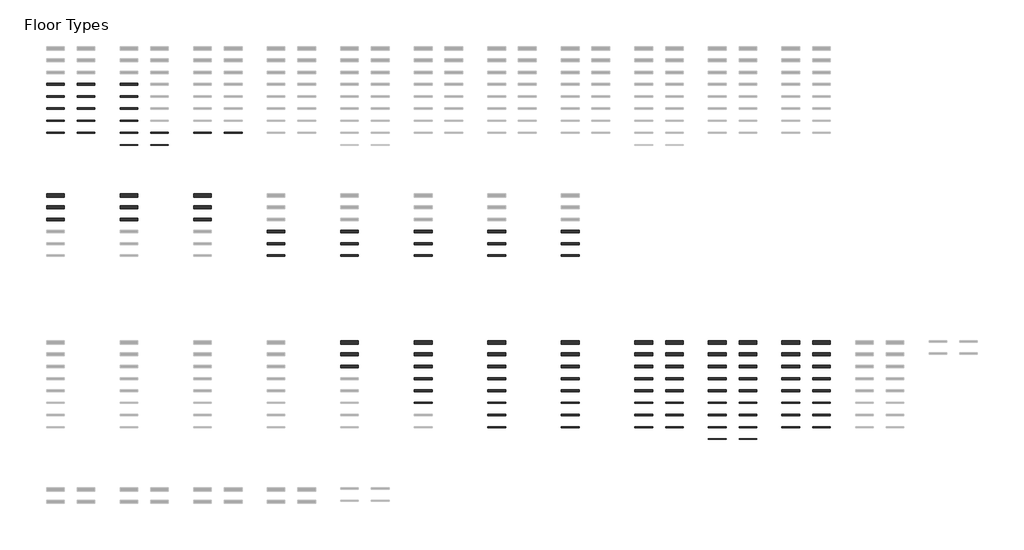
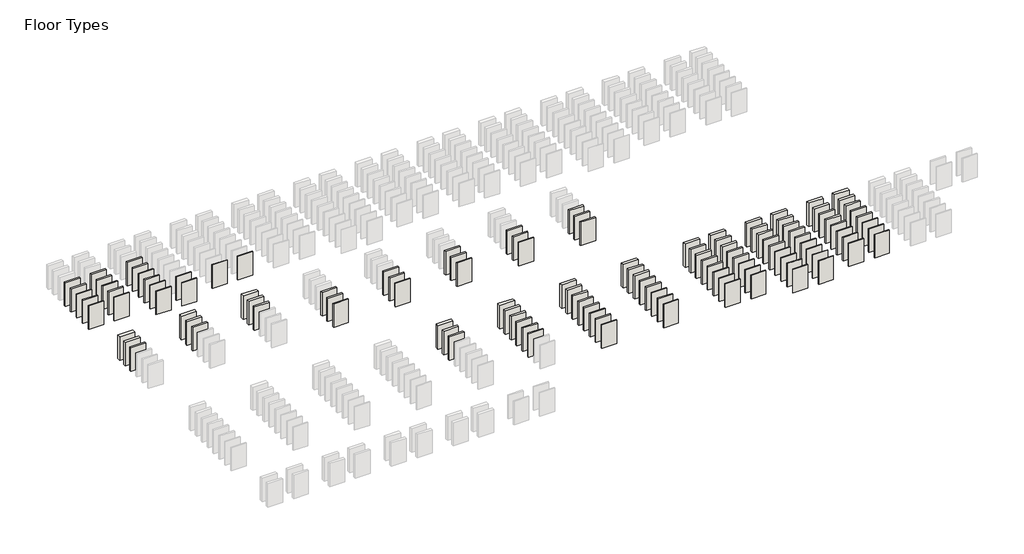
# One storey, part 2 of 4: 119 walls.
"""IFC4 building model written with IfcOpenShell, lengths in millimetres."""

from ifc_helpers import new_model, si_unit, origin, origin_with_axes, place, context, project, spatial, polyline, outline, extrude, element, save

model = new_model("IFC4")

# Units and contexts
model_context = context("Model", 3, world=origin())
ifc_project = project(units=[si_unit("LENGTHUNIT", "METRE", prefix="MILLI")], contexts=[model_context])

# Site, building, storey
site = spatial("IfcSite", under=ifc_project)
building = spatial("IfcBuilding", under=site)
storey = spatial("IfcBuildingStorey", under=building, Name="Floor Types", Elevation=0.0)

# Walls
placement = place(None, origin())
element("IfcWall", 1, ObjectType="ASTL_PS1200ZW_Hz_175mm", at=placement, inside=storey, context=model_context, shape_type="SweptSolid", body=[
    extrude(outline(polyline([(1447.8085217, -20174.0), (0.0, -20174.0), (0.0, -19999.0), (1447.8085217, -19999.0), (1447.8085217, -20174.0)])), origin_with_axes(), (0.0, 0.0, 1.0), 2400.0),
])
element("IfcWall", 2, ObjectType="ASTL_PS1200ZW_Hz_150mm", at=placement, inside=storey, context=model_context, shape_type="SweptSolid", body=[
    extrude(outline(polyline([(1447.8085217, -21148.0), (0.0, -21148.0), (0.0, -20998.0), (1447.8085217, -20998.0), (1447.8085217, -21148.0)])), origin_with_axes(), (0.0, 0.0, 1.0), 2400.0),
])
element("IfcWall", 3, ObjectType="ASTL_PS1200ZW_Hz_120mm", at=placement, inside=storey, context=model_context, shape_type="SweptSolid", body=[
    extrude(outline(polyline([(1447.8085217, -22119.0), (0.0, -22119.0), (0.0, -21999.0), (1447.8085217, -21999.0), (1447.8085217, -22119.0)])), origin_with_axes(), (0.0, 0.0, 1.0), 2400.0),
])
element("IfcWall", 4, ObjectType="ASTL_PS1200ZW_Hz_100mm", at=placement, inside=storey, context=model_context, shape_type="SweptSolid", body=[
    extrude(outline(polyline([(1447.8085217, -23099.0), (0.0, -23099.0), (0.0, -22999.0), (1447.8085217, -22999.0), (1447.8085217, -23099.0)])), origin_with_axes(), (0.0, 0.0, 1.0), 2400.0),
])
element("IfcWall", 5, ObjectType="ASTL_PS1200ZW_Vt_175mm", at=placement, inside=storey, context=model_context, shape_type="SweptSolid", body=[
    extrude(outline(polyline([(3947.5922316, -20174.0), (2499.78371, -20174.0), (2499.78371, -19999.0), (3947.5922316, -19999.0), (3947.5922316, -20174.0)])), origin_with_axes(), (0.0, 0.0, 1.0), 2400.0),
])
element("IfcWall", 6, ObjectType="ASTL_PS1200ZW_Vt_150mm", at=placement, inside=storey, context=model_context, shape_type="SweptSolid", body=[
    extrude(outline(polyline([(3947.5922316, -21149.0), (2499.78371, -21149.0), (2499.78371, -20999.0), (3947.5922316, -20999.0), (3947.5922316, -21149.0)])), origin_with_axes(), (0.0, 0.0, 1.0), 2400.0),
])
element("IfcWall", 7, ObjectType="ASTL_PS1200ZW_Vt_120mm", at=placement, inside=storey, context=model_context, shape_type="SweptSolid", body=[
    extrude(outline(polyline([(3947.5922316, -22119.0), (2499.78371, -22119.0), (2499.78371, -21999.0), (3947.5922316, -21999.0), (3947.5922316, -22119.0)])), origin_with_axes(), (0.0, 0.0, 1.0), 2400.0),
])
element("IfcWall", 8, ObjectType="ASTL_PS1200ZW_Vt_100mm", at=placement, inside=storey, context=model_context, shape_type="SweptSolid", body=[
    extrude(outline(polyline([(3947.5922316, -23099.0), (2499.78371, -23099.0), (2499.78371, -22999.0), (3947.5922316, -22999.0), (3947.5922316, -23099.0)])), origin_with_axes(), (0.0, 0.0, 1.0), 2400.0),
])
element("IfcWall", 9, ObjectType="ASTL_PS1200ZW_Vt_080mm", at=placement, inside=storey, context=model_context, shape_type="SweptSolid", body=[
    extrude(outline(polyline([(3947.5922316, -24079.0), (2499.78371, -24079.0), (2499.78371, -23999.0), (3947.5922316, -23999.0), (3947.5922316, -24079.0)])), origin_with_axes(), (0.0, 0.0, 1.0), 2400.0),
])
element("IfcWall", 10, ObjectType="ASTL_PS1200ZW_Hz_080mm", at=placement, inside=storey, context=model_context, shape_type="SweptSolid", body=[
    extrude(outline(polyline([(1447.8085217, -24079.0), (0.0, -24079.0), (0.0, -23999.0), (1447.8085217, -23999.0), (1447.8085217, -24079.0)])), origin_with_axes(), (0.0, 0.0, 1.0), 2400.0),
])
element("IfcWall", 11, ObjectType="ASTE_PS1200ZW_Hz_175mm", at=placement, inside=storey, context=model_context, shape_type="SweptSolid", body=[
    extrude(outline(polyline([(7447.8085217, -20174.0), (6000.0, -20174.0), (6000.0, -19999.0), (7447.8085217, -19999.0), (7447.8085217, -20174.0)])), origin_with_axes(), (0.0, 0.0, 1.0), 2400.0),
])
element("IfcWall", 12, ObjectType="ASTE_PS1200ZW_Hz_150mm", at=placement, inside=storey, context=model_context, shape_type="SweptSolid", body=[
    extrude(outline(polyline([(7447.8085217, -21149.0), (6000.0, -21149.0), (6000.0, -20999.0), (7447.8085217, -20999.0), (7447.8085217, -21149.0)])), origin_with_axes(), (0.0, 0.0, 1.0), 2400.0),
])
element("IfcWall", 13, ObjectType="ASTE_PS1200ZW_Hz_120mm", at=placement, inside=storey, context=model_context, shape_type="SweptSolid", body=[
    extrude(outline(polyline([(7447.8085217, -22119.0), (6000.0, -22119.0), (6000.0, -21999.0), (7447.8085217, -21999.0), (7447.8085217, -22119.0)])), origin_with_axes(), (0.0, 0.0, 1.0), 2400.0),
])
element("IfcWall", 14, ObjectType="ASTE_PS1200ZW_Hz_100mm", at=placement, inside=storey, context=model_context, shape_type="SweptSolid", body=[
    extrude(outline(polyline([(7447.8085217, -23099.0), (6000.0, -23099.0), (6000.0, -22999.0), (7447.8085217, -22999.0), (7447.8085217, -23099.0)])), origin_with_axes(), (0.0, 0.0, 1.0), 2400.0),
])
element("IfcWall", 15, ObjectType="ASTE_PS1200ZW_Vt_080mm", at=placement, inside=storey, context=model_context, shape_type="SweptSolid", body=[
    extrude(outline(polyline([(9947.5922316, -24079.0), (8500.0, -24079.0), (8500.0, -23999.0), (9947.5922316, -23999.0), (9947.5922316, -24079.0)])), origin_with_axes(), (0.0, 0.0, 1.0), 2400.0),
])
element("IfcWall", 16, ObjectType="ASTE_PS1200ZW_Hz_080mm", at=placement, inside=storey, context=model_context, shape_type="SweptSolid", body=[
    extrude(outline(polyline([(7447.8085217, -24079.0), (6000.0, -24079.0), (6000.0, -23999.0), (7447.8085217, -23999.0), (7447.8085217, -24079.0)])), origin_with_axes(), (0.0, 0.0, 1.0), 2400.0),
])
element("IfcWall", 17, ObjectType="ASTE_PS1200ZW_Vt_050mm", at=placement, inside=storey, context=model_context, shape_type="SweptSolid", body=[
    extrude(outline(polyline([(9947.5922316, -25049.0), (8500.0, -25049.0), (8500.0, -24999.0), (9947.5922316, -24999.0), (9947.5922316, -25049.0)])), origin_with_axes(), (0.0, 0.0, 1.0), 2400.0),
])
element("IfcWall", 18, ObjectType="ASTE_PS1200ZW_Hz_050mm", at=placement, inside=storey, context=model_context, shape_type="SweptSolid", body=[
    extrude(outline(polyline([(7447.8085217, -25049.0), (6000.0, -25049.0), (6000.0, -24999.0), (7447.8085217, -24999.0), (7447.8085217, -25049.0)])), origin_with_axes(), (0.0, 0.0, 1.0), 2400.0),
])
element("IfcWall", 19, ObjectType="ASTS_PS1200ZW_Vt_080mm", at=placement, inside=storey, context=model_context, shape_type="SweptSolid", body=[
    extrude(outline(polyline([(15947.8085217, -24079.0), (14500.0, -24079.0), (14500.0, -23999.0), (15947.8085217, -23999.0), (15947.8085217, -24079.0)])), origin_with_axes(), (0.0, 0.0, 1.0), 2400.0),
])
element("IfcWall", 20, ObjectType="ASTS_PS1200ZW_Hz_080mm", at=placement, inside=storey, context=model_context, shape_type="SweptSolid", body=[
    extrude(outline(polyline([(13447.8085217, -24079.0), (12000.0, -24079.0), (12000.0, -23999.0), (13447.8085217, -23999.0), (13447.8085217, -24079.0)])), origin_with_axes(), (0.0, 0.0, 1.0), 2400.0),
])
element("IfcWall", 21, ObjectType="ASTL_PS1200PD_Hz_300mm", at=placement, inside=storey, context=model_context, shape_type="SweptSolid", body=[
    extrude(outline(polyline([(1447.8085217, -29298.0), (0.0, -29298.0), (0.0, -28998.0), (1447.8085217, -28998.0), (1447.8085217, -29298.0)])), origin_with_axes(), (0.0, 0.0, 1.0), 2400.0),
])
element("IfcWall", 22, ObjectType="ASTL_PS1200PD_Hz_240mm", at=placement, inside=storey, context=model_context, shape_type="SweptSolid", body=[
    extrude(outline(polyline([(1447.8085217, -30239.0), (0.0, -30239.0), (0.0, -29999.0), (1447.8085217, -29999.0), (1447.8085217, -30239.0)])), origin_with_axes(), (0.0, 0.0, 1.0), 2400.0),
])
element("IfcWall", 23, ObjectType="ASTL_PS1200PD_Hz_200mm", at=placement, inside=storey, context=model_context, shape_type="SweptSolid", body=[
    extrude(outline(polyline([(1447.8085217, -31199.0), (0.0, -31199.0), (0.0, -30999.0), (1447.8085217, -30999.0), (1447.8085217, -31199.0)])), origin_with_axes(), (0.0, 0.0, 1.0), 2400.0),
])
element("IfcWall", 24, ObjectType="ASTE_PS1200PD_Hz_300mm", at=placement, inside=storey, context=model_context, shape_type="SweptSolid", body=[
    extrude(outline(polyline([(7447.8085217, -29298.0), (6000.0, -29298.0), (6000.0, -28998.0), (7447.8085217, -28998.0), (7447.8085217, -29298.0)])), origin_with_axes(), (0.0, 0.0, 1.0), 2400.0),
])
element("IfcWall", 25, ObjectType="ASTE_PS1200PD_Hz_240mm", at=placement, inside=storey, context=model_context, shape_type="SweptSolid", body=[
    extrude(outline(polyline([(7447.8085217, -30239.0), (6000.0, -30239.0), (6000.0, -29999.0), (7447.8085217, -29999.0), (7447.8085217, -30239.0)])), origin_with_axes(), (0.0, 0.0, 1.0), 2400.0),
])
element("IfcWall", 26, ObjectType="ASTE_PS1200PD_Hz_200mm", at=placement, inside=storey, context=model_context, shape_type="SweptSolid", body=[
    extrude(outline(polyline([(7447.8085217, -31199.0), (6000.0, -31199.0), (6000.0, -30999.0), (7447.8085217, -30999.0), (7447.8085217, -31199.0)])), origin_with_axes(), (0.0, 0.0, 1.0), 2400.0),
])
element("IfcWall", 27, ObjectType="ASTF_PS1200PD_Hz_300mm", at=placement, inside=storey, context=model_context, shape_type="SweptSolid", body=[
    extrude(outline(polyline([(13447.8085217, -29298.0), (12000.0, -29298.0), (12000.0, -28998.0), (13447.8085217, -28998.0), (13447.8085217, -29298.0)])), origin_with_axes(), (0.0, 0.0, 1.0), 2400.0),
])
element("IfcWall", 28, ObjectType="ASTF_PS1200PD_Hz_240mm", at=placement, inside=storey, context=model_context, shape_type="SweptSolid", body=[
    extrude(outline(polyline([(13447.8085217, -30239.0), (12000.0, -30239.0), (12000.0, -29999.0), (13447.8085217, -29999.0), (13447.8085217, -30239.0)])), origin_with_axes(), (0.0, 0.0, 1.0), 2400.0),
])
element("IfcWall", 29, ObjectType="ASTF_PS1200PD_Hz_200mm", at=placement, inside=storey, context=model_context, shape_type="SweptSolid", body=[
    extrude(outline(polyline([(13447.8085217, -31199.0), (12000.0, -31199.0), (12000.0, -30999.0), (13447.8085217, -30999.0), (13447.8085217, -31199.0)])), origin_with_axes(), (0.0, 0.0, 1.0), 2400.0),
])
element("IfcWall", 30, ObjectType="ASTS_PS1200PD_Hz_175mm", at=placement, inside=storey, context=model_context, shape_type="SweptSolid", body=[
    extrude(outline(polyline([(19447.8085217, -32174.0), (18000.0, -32174.0), (18000.0, -31999.0), (19447.8085217, -31999.0), (19447.8085217, -32174.0)])), origin_with_axes(), (0.0, 0.0, 1.0), 2400.0),
])
element("IfcWall", 31, ObjectType="ASTS_PS1200PD_Hz_150mm", at=placement, inside=storey, context=model_context, shape_type="SweptSolid", body=[
    extrude(outline(polyline([(19447.8085217, -33149.0), (18000.0, -33149.0), (18000.0, -32999.0), (19447.8085217, -32999.0), (19447.8085217, -33149.0)])), origin_with_axes(), (0.0, 0.0, 1.0), 2400.0),
])
element("IfcWall", 32, ObjectType="ASTS_PS1200PD_Hz_120mm", at=placement, inside=storey, context=model_context, shape_type="SweptSolid", body=[
    extrude(outline(polyline([(19447.8085217, -34119.0), (18000.0, -34119.0), (18000.0, -33999.0), (19447.8085217, -33999.0), (19447.8085217, -34119.0)])), origin_with_axes(), (0.0, 0.0, 1.0), 2400.0),
])
element("IfcWall", 33, ObjectType="ASTL_PS1200PD-LEC_Hz_175mm", at=placement, inside=storey, context=model_context, shape_type="SweptSolid", body=[
    extrude(outline(polyline([(25447.8085217, -32174.0), (24000.0, -32174.0), (24000.0, -31999.0), (25447.8085217, -31999.0), (25447.8085217, -32174.0)])), origin_with_axes(), (0.0, 0.0, 1.0), 2400.0),
])
element("IfcWall", 34, ObjectType="ASTL_PS1200PD-LEC_Hz_150mm", at=placement, inside=storey, context=model_context, shape_type="SweptSolid", body=[
    extrude(outline(polyline([(25447.8085217, -33149.0), (24000.0, -33149.0), (24000.0, -32999.0), (25447.8085217, -32999.0), (25447.8085217, -33149.0)])), origin_with_axes(), (0.0, 0.0, 1.0), 2400.0),
])
element("IfcWall", 35, ObjectType="ASTL_PS1200PD-LEC_Hz_120mm", at=placement, inside=storey, context=model_context, shape_type="SweptSolid", body=[
    extrude(outline(polyline([(25447.8085217, -34119.0), (24000.0, -34119.0), (24000.0, -33999.0), (25447.8085217, -33999.0), (25447.8085217, -34119.0)])), origin_with_axes(), (0.0, 0.0, 1.0), 2400.0),
])
element("IfcWall", 36, ObjectType="ASTE_PS1200PD-LEC_Hz_175mm", at=placement, inside=storey, context=model_context, shape_type="SweptSolid", body=[
    extrude(outline(polyline([(31447.8085217, -32174.0), (30000.0, -32174.0), (30000.0, -31999.0), (31447.8085217, -31999.0), (31447.8085217, -32174.0)])), origin_with_axes(), (0.0, 0.0, 1.0), 2400.0),
])
element("IfcWall", 37, ObjectType="ASTE_PS1200PD-LEC_Hz_150mm", at=placement, inside=storey, context=model_context, shape_type="SweptSolid", body=[
    extrude(outline(polyline([(31447.8085217, -33149.0), (30000.0, -33149.0), (30000.0, -32999.0), (31447.8085217, -32999.0), (31447.8085217, -33149.0)])), origin_with_axes(), (0.0, 0.0, 1.0), 2400.0),
])
element("IfcWall", 38, ObjectType="ASTE_PS1200PD-LEC_Hz_120mm", at=placement, inside=storey, context=model_context, shape_type="SweptSolid", body=[
    extrude(outline(polyline([(31447.8085217, -34119.0), (30000.0, -34119.0), (30000.0, -33999.0), (31447.8085217, -33999.0), (31447.8085217, -34119.0)])), origin_with_axes(), (0.0, 0.0, 1.0), 2400.0),
])
element("IfcWall", 39, ObjectType="ASTF_PS1200PD-LEC_Hz_175mm", at=placement, inside=storey, context=model_context, shape_type="SweptSolid", body=[
    extrude(outline(polyline([(37447.8085217, -32174.0), (36000.0, -32174.0), (36000.0, -31999.0), (37447.8085217, -31999.0), (37447.8085217, -32174.0)])), origin_with_axes(), (0.0, 0.0, 1.0), 2400.0),
])
element("IfcWall", 40, ObjectType="ASTF_PS1200PD-LEC_Hz_150mm", at=placement, inside=storey, context=model_context, shape_type="SweptSolid", body=[
    extrude(outline(polyline([(37447.8085217, -33149.0), (36000.0, -33149.0), (36000.0, -32999.0), (37447.8085217, -32999.0), (37447.8085217, -33149.0)])), origin_with_axes(), (0.0, 0.0, 1.0), 2400.0),
])
element("IfcWall", 41, ObjectType="ASTF_PS1200PD-LEC_Hz_120mm", at=placement, inside=storey, context=model_context, shape_type="SweptSolid", body=[
    extrude(outline(polyline([(37447.8085217, -34119.0), (36000.0, -34119.0), (36000.0, -33999.0), (37447.8085217, -33999.0), (37447.8085217, -34119.0)])), origin_with_axes(), (0.0, 0.0, 1.0), 2400.0),
])
element("IfcWall", 42, ObjectType="ASTS_PS1200PD-LEC_Hz_175mm", at=placement, inside=storey, context=model_context, shape_type="SweptSolid", body=[
    extrude(outline(polyline([(43447.8085217, -32174.0), (42000.0, -32174.0), (42000.0, -31999.0), (43447.8085217, -31999.0), (43447.8085217, -32174.0)])), origin_with_axes(), (0.0, 0.0, 1.0), 2400.0),
])
element("IfcWall", 43, ObjectType="ASTS_PS1200PD-LEC_Hz_150mm", at=placement, inside=storey, context=model_context, shape_type="SweptSolid", body=[
    extrude(outline(polyline([(43447.8085217, -33149.0), (42000.0, -33149.0), (42000.0, -32999.0), (43447.8085217, -32999.0), (43447.8085217, -33149.0)])), origin_with_axes(), (0.0, 0.0, 1.0), 2400.0),
])
element("IfcWall", 44, ObjectType="ASTS_PS1200PD-LEC_Hz_120mm", at=placement, inside=storey, context=model_context, shape_type="SweptSolid", body=[
    extrude(outline(polyline([(43447.8085217, -34119.0), (42000.0, -34119.0), (42000.0, -33999.0), (43447.8085217, -33999.0), (43447.8085217, -34119.0)])), origin_with_axes(), (0.0, 0.0, 1.0), 2400.0),
])
element("IfcWall", 45, ObjectType="ASTL_PS1200PS-LEC_Hz_300mm", at=placement, inside=storey, context=model_context, shape_type="SweptSolid", body=[
    extrude(outline(polyline([(25447.8085217, -41298.0), (24000.0, -41298.0), (24000.0, -40998.0), (25447.8085217, -40998.0), (25447.8085217, -41298.0)])), origin_with_axes(), (0.0, 0.0, 1.0), 2400.0),
])
element("IfcWall", 46, ObjectType="ASTL_PS1200PS-LEC_Hz_240mm", at=placement, inside=storey, context=model_context, shape_type="SweptSolid", body=[
    extrude(outline(polyline([(25447.8085217, -42239.0), (24000.0, -42239.0), (24000.0, -41999.0), (25447.8085217, -41999.0), (25447.8085217, -42239.0)])), origin_with_axes(), (0.0, 0.0, 1.0), 2400.0),
])
element("IfcWall", 47, ObjectType="ASTL_PS1200PS-LEC_Hz_200mm", at=placement, inside=storey, context=model_context, shape_type="SweptSolid", body=[
    extrude(outline(polyline([(25447.8085217, -43199.0), (24000.0, -43199.0), (24000.0, -42999.0), (25447.8085217, -42999.0), (25447.8085217, -43199.0)])), origin_with_axes(), (0.0, 0.0, 1.0), 2400.0),
])
element("IfcWall", 48, ObjectType="ASTE_PS1200PS-LEC_Hz_300mm", at=placement, inside=storey, context=model_context, shape_type="SweptSolid", body=[
    extrude(outline(polyline([(31447.8085217, -41299.0), (30000.0, -41299.0), (30000.0, -40999.0), (31447.8085217, -40999.0), (31447.8085217, -41299.0)])), origin_with_axes(), (0.0, 0.0, 1.0), 2400.0),
])
element("IfcWall", 49, ObjectType="ASTE_PS1200PS-LEC_Hz_240mm", at=placement, inside=storey, context=model_context, shape_type="SweptSolid", body=[
    extrude(outline(polyline([(31447.8085217, -42239.0), (30000.0, -42239.0), (30000.0, -41999.0), (31447.8085217, -41999.0), (31447.8085217, -42239.0)])), origin_with_axes(), (0.0, 0.0, 1.0), 2400.0),
])
element("IfcWall", 50, ObjectType="ASTE_PS1200PS-LEC_Hz_200mm", at=placement, inside=storey, context=model_context, shape_type="SweptSolid", body=[
    extrude(outline(polyline([(31447.8085217, -43199.0), (30000.0, -43199.0), (30000.0, -42999.0), (31447.8085217, -42999.0), (31447.8085217, -43199.0)])), origin_with_axes(), (0.0, 0.0, 1.0), 2400.0),
])
element("IfcWall", 51, ObjectType="ASTE_PS1200PS-LEC_Hz_175mm", at=placement, inside=storey, context=model_context, shape_type="SweptSolid", body=[
    extrude(outline(polyline([(31447.8085217, -44174.0), (30000.0, -44174.0), (30000.0, -43999.0), (31447.8085217, -43999.0), (31447.8085217, -44174.0)])), origin_with_axes(), (0.0, 0.0, 1.0), 2400.0),
])
element("IfcWall", 52, ObjectType="ASTE_PS1200PS-LEC_Hz_150mm", at=placement, inside=storey, context=model_context, shape_type="SweptSolid", body=[
    extrude(outline(polyline([(31447.8085217, -45149.0), (30000.0, -45149.0), (30000.0, -44999.0), (31447.8085217, -44999.0), (31447.8085217, -45149.0)])), origin_with_axes(), (0.0, 0.0, 1.0), 2400.0),
])
element("IfcWall", 53, ObjectType="ASTE_PS1200PS-LEC_Hz_120mm", at=placement, inside=storey, context=model_context, shape_type="SweptSolid", body=[
    extrude(outline(polyline([(31447.8085217, -46119.0), (30000.0, -46119.0), (30000.0, -45999.0), (31447.8085217, -45999.0), (31447.8085217, -46119.0)])), origin_with_axes(), (0.0, 0.0, 1.0), 2400.0),
])
element("IfcWall", 54, ObjectType="ASTF_PS1200PS-LEC_Hz_300mm", at=placement, inside=storey, context=model_context, shape_type="SweptSolid", body=[
    extrude(outline(polyline([(37447.8085217, -41299.0), (36000.0, -41299.0), (36000.0, -40999.0), (37447.8085217, -40999.0), (37447.8085217, -41299.0)])), origin_with_axes(), (0.0, 0.0, 1.0), 2400.0),
])
element("IfcWall", 55, ObjectType="ASTF_PS1200PS-LEC_Hz_240mm", at=placement, inside=storey, context=model_context, shape_type="SweptSolid", body=[
    extrude(outline(polyline([(37447.8085217, -42239.0), (36000.0, -42239.0), (36000.0, -41999.0), (37447.8085217, -41999.0), (37447.8085217, -42239.0)])), origin_with_axes(), (0.0, 0.0, 1.0), 2400.0),
])
element("IfcWall", 56, ObjectType="ASTF_PS1200PS-LEC_Hz_200mm", at=placement, inside=storey, context=model_context, shape_type="SweptSolid", body=[
    extrude(outline(polyline([(37447.8085217, -43199.0), (36000.0, -43199.0), (36000.0, -42999.0), (37447.8085217, -42999.0), (37447.8085217, -43199.0)])), origin_with_axes(), (0.0, 0.0, 1.0), 2400.0),
])
element("IfcWall", 57, ObjectType="ASTF_PS1200PS-LEC_Hz_175mm", at=placement, inside=storey, context=model_context, shape_type="SweptSolid", body=[
    extrude(outline(polyline([(37447.8085217, -44174.0), (36000.0, -44174.0), (36000.0, -43999.0), (37447.8085217, -43999.0), (37447.8085217, -44174.0)])), origin_with_axes(), (0.0, 0.0, 1.0), 2400.0),
])
element("IfcWall", 58, ObjectType="ASTF_PS1200PS-LEC_Hz_150mm", at=placement, inside=storey, context=model_context, shape_type="SweptSolid", body=[
    extrude(outline(polyline([(37447.8085217, -45149.0), (36000.0, -45149.0), (36000.0, -44999.0), (37447.8085217, -44999.0), (37447.8085217, -45149.0)])), origin_with_axes(), (0.0, 0.0, 1.0), 2400.0),
])
element("IfcWall", 59, ObjectType="ASTF_PS1200PS-LEC_Hz_120mm", at=placement, inside=storey, context=model_context, shape_type="SweptSolid", body=[
    extrude(outline(polyline([(37447.8085217, -46119.0), (36000.0, -46119.0), (36000.0, -45999.0), (37447.8085217, -45999.0), (37447.8085217, -46119.0)])), origin_with_axes(), (0.0, 0.0, 1.0), 2400.0),
])
element("IfcWall", 60, ObjectType="ASTF_PS1200PS-LEC_Hz_100mm", at=placement, inside=storey, context=model_context, shape_type="SweptSolid", body=[
    extrude(outline(polyline([(37447.8085217, -47099.0), (36000.0, -47099.0), (36000.0, -46999.0), (37447.8085217, -46999.0), (37447.8085217, -47099.0)])), origin_with_axes(), (0.0, 0.0, 1.0), 2400.0),
])
element("IfcWall", 61, ObjectType="ASTF_PS1200PS-LEC_Hz_080mm", at=placement, inside=storey, context=model_context, shape_type="SweptSolid", body=[
    extrude(outline(polyline([(37447.8085217, -48079.0), (36000.0, -48079.0), (36000.0, -47999.0), (37447.8085217, -47999.0), (37447.8085217, -48079.0)])), origin_with_axes(), (0.0, 0.0, 1.0), 2400.0),
])
element("IfcWall", 62, ObjectType="ASTS_PS1200PS-LEC_Hz_300mm", at=placement, inside=storey, context=model_context, shape_type="SweptSolid", body=[
    extrude(outline(polyline([(43447.8085217, -41299.0), (42000.0, -41299.0), (42000.0, -40999.0), (43447.8085217, -40999.0), (43447.8085217, -41299.0)])), origin_with_axes(), (0.0, 0.0, 1.0), 2400.0),
])
element("IfcWall", 63, ObjectType="ASTS_PS1200PS-LEC_Hz_240mm", at=placement, inside=storey, context=model_context, shape_type="SweptSolid", body=[
    extrude(outline(polyline([(43447.8085217, -42239.0), (42000.0, -42239.0), (42000.0, -41999.0), (43447.8085217, -41999.0), (43447.8085217, -42239.0)])), origin_with_axes(), (0.0, 0.0, 1.0), 2400.0),
])
element("IfcWall", 64, ObjectType="ASTS_PS1200PS-LEC_Hz_200mm", at=placement, inside=storey, context=model_context, shape_type="SweptSolid", body=[
    extrude(outline(polyline([(43447.8085217, -43199.0), (42000.0, -43199.0), (42000.0, -42999.0), (43447.8085217, -42999.0), (43447.8085217, -43199.0)])), origin_with_axes(), (0.0, 0.0, 1.0), 2400.0),
])
element("IfcWall", 65, ObjectType="ASTS_PS1200PS-LEC_Hz_175mm", at=placement, inside=storey, context=model_context, shape_type="SweptSolid", body=[
    extrude(outline(polyline([(43447.8085217, -44174.0), (42000.0, -44174.0), (42000.0, -43999.0), (43447.8085217, -43999.0), (43447.8085217, -44174.0)])), origin_with_axes(), (0.0, 0.0, 1.0), 2400.0),
])
element("IfcWall", 66, ObjectType="ASTS_PS1200PS-LEC_Hz_150mm", at=placement, inside=storey, context=model_context, shape_type="SweptSolid", body=[
    extrude(outline(polyline([(43447.8085217, -45149.0), (42000.0, -45149.0), (42000.0, -44999.0), (43447.8085217, -44999.0), (43447.8085217, -45149.0)])), origin_with_axes(), (0.0, 0.0, 1.0), 2400.0),
])
element("IfcWall", 67, ObjectType="ASTS_PS1200PS-LEC_Hz_120mm", at=placement, inside=storey, context=model_context, shape_type="SweptSolid", body=[
    extrude(outline(polyline([(43447.8085217, -46119.0), (42000.0, -46119.0), (42000.0, -45999.0), (43447.8085217, -45999.0), (43447.8085217, -46119.0)])), origin_with_axes(), (0.0, 0.0, 1.0), 2400.0),
])
element("IfcWall", 68, ObjectType="ASTS_PS1200PS-LEC_Hz_100mm", at=placement, inside=storey, context=model_context, shape_type="SweptSolid", body=[
    extrude(outline(polyline([(43447.8085217, -47099.0), (42000.0, -47099.0), (42000.0, -46999.0), (43447.8085217, -46999.0), (43447.8085217, -47099.0)])), origin_with_axes(), (0.0, 0.0, 1.0), 2400.0),
])
element("IfcWall", 69, ObjectType="ASTS_PS1200PS-LEC_Hz_080mm", at=placement, inside=storey, context=model_context, shape_type="SweptSolid", body=[
    extrude(outline(polyline([(43447.8085217, -48079.0), (42000.0, -48079.0), (42000.0, -47999.0), (43447.8085217, -47999.0), (43447.8085217, -48079.0)])), origin_with_axes(), (0.0, 0.0, 1.0), 2400.0),
])
element("IfcWall", 70, ObjectType="ASTL_PS1200PL_Hz_300mm", at=placement, inside=storey, context=model_context, shape_type="SweptSolid", body=[
    extrude(outline(polyline([(49447.8085217, -41299.0), (48000.0, -41299.0), (48000.0, -40999.0), (49447.8085217, -40999.0), (49447.8085217, -41299.0)])), origin_with_axes(), (0.0, 0.0, 1.0), 2400.0),
])
element("IfcWall", 71, ObjectType="ASTL_PS1200PL_Hz_240mm", at=placement, inside=storey, context=model_context, shape_type="SweptSolid", body=[
    extrude(outline(polyline([(49447.8085217, -42239.0), (48000.0, -42239.0), (48000.0, -41999.0), (49447.8085217, -41999.0), (49447.8085217, -42239.0)])), origin_with_axes(), (0.0, 0.0, 1.0), 2400.0),
])
element("IfcWall", 72, ObjectType="ASTL_PS1200PL_Hz_200mm", at=placement, inside=storey, context=model_context, shape_type="SweptSolid", body=[
    extrude(outline(polyline([(49447.8085217, -43199.0), (48000.0, -43199.0), (48000.0, -42999.0), (49447.8085217, -42999.0), (49447.8085217, -43199.0)])), origin_with_axes(), (0.0, 0.0, 1.0), 2400.0),
])
element("IfcWall", 73, ObjectType="ASTL_PS1200PL_Hz_175mm", at=placement, inside=storey, context=model_context, shape_type="SweptSolid", body=[
    extrude(outline(polyline([(49447.8085217, -44174.0), (48000.0, -44174.0), (48000.0, -43999.0), (49447.8085217, -43999.0), (49447.8085217, -44174.0)])), origin_with_axes(), (0.0, 0.0, 1.0), 2400.0),
])
element("IfcWall", 74, ObjectType="ASTL_PS1200PL_Hz_150mm", at=placement, inside=storey, context=model_context, shape_type="SweptSolid", body=[
    extrude(outline(polyline([(49447.8085217, -45149.0), (48000.0, -45149.0), (48000.0, -44999.0), (49447.8085217, -44999.0), (49447.8085217, -45149.0)])), origin_with_axes(), (0.0, 0.0, 1.0), 2400.0),
])
element("IfcWall", 75, ObjectType="ASTL_PS1200PL_Hz_120mm", at=placement, inside=storey, context=model_context, shape_type="SweptSolid", body=[
    extrude(outline(polyline([(49447.8085217, -46119.0), (48000.0, -46119.0), (48000.0, -45999.0), (49447.8085217, -45999.0), (49447.8085217, -46119.0)])), origin_with_axes(), (0.0, 0.0, 1.0), 2400.0),
])
element("IfcWall", 76, ObjectType="ASTL_PS1200PL_Hz_100mm", at=placement, inside=storey, context=model_context, shape_type="SweptSolid", body=[
    extrude(outline(polyline([(49447.8085217, -47099.0), (48000.0, -47099.0), (48000.0, -46999.0), (49447.8085217, -46999.0), (49447.8085217, -47099.0)])), origin_with_axes(), (0.0, 0.0, 1.0), 2400.0),
])
element("IfcWall", 77, ObjectType="ASTL_PS1200PL_Vt_300mm", at=placement, inside=storey, context=model_context, shape_type="SweptSolid", body=[
    extrude(outline(polyline([(51947.5922316, -41299.0), (50499.78371, -41299.0), (50499.78371, -40999.0), (51947.5922316, -40999.0), (51947.5922316, -41299.0)])), origin_with_axes(), (0.0, 0.0, 1.0), 2400.0),
])
element("IfcWall", 78, ObjectType="ASTL_PS1200PL_Vt_240mm", at=placement, inside=storey, context=model_context, shape_type="SweptSolid", body=[
    extrude(outline(polyline([(51947.5922316, -42239.0), (50499.78371, -42239.0), (50499.78371, -41999.0), (51947.5922316, -41999.0), (51947.5922316, -42239.0)])), origin_with_axes(), (0.0, 0.0, 1.0), 2400.0),
])
element("IfcWall", 79, ObjectType="ASTL_PS1200PL_Vt_200mm", at=placement, inside=storey, context=model_context, shape_type="SweptSolid", body=[
    extrude(outline(polyline([(51947.5922316, -43199.0), (50499.78371, -43199.0), (50499.78371, -42999.0), (51947.5922316, -42999.0), (51947.5922316, -43199.0)])), origin_with_axes(), (0.0, 0.0, 1.0), 2400.0),
])
element("IfcWall", 80, ObjectType="ASTL_PS1200PL_Vt_175mm", at=placement, inside=storey, context=model_context, shape_type="SweptSolid", body=[
    extrude(outline(polyline([(51947.5922316, -44174.0), (50499.78371, -44174.0), (50499.78371, -43999.0), (51947.5922316, -43999.0), (51947.5922316, -44174.0)])), origin_with_axes(), (0.0, 0.0, 1.0), 2400.0),
])
element("IfcWall", 81, ObjectType="ASTL_PS1200PL_Vt_150mm", at=placement, inside=storey, context=model_context, shape_type="SweptSolid", body=[
    extrude(outline(polyline([(51947.5922316, -45149.0), (50499.78371, -45149.0), (50499.78371, -44999.0), (51947.5922316, -44999.0), (51947.5922316, -45149.0)])), origin_with_axes(), (0.0, 0.0, 1.0), 2400.0),
])
element("IfcWall", 82, ObjectType="ASTL_PS1200PL_Vt_120mm", at=placement, inside=storey, context=model_context, shape_type="SweptSolid", body=[
    extrude(outline(polyline([(51947.5922316, -46119.0), (50499.78371, -46119.0), (50499.78371, -45999.0), (51947.5922316, -45999.0), (51947.5922316, -46119.0)])), origin_with_axes(), (0.0, 0.0, 1.0), 2400.0),
])
element("IfcWall", 83, ObjectType="ASTL_PS1200PL_Vt_100mm", at=placement, inside=storey, context=model_context, shape_type="SweptSolid", body=[
    extrude(outline(polyline([(51947.5922316, -47099.0), (50499.78371, -47099.0), (50499.78371, -46999.0), (51947.5922316, -46999.0), (51947.5922316, -47099.0)])), origin_with_axes(), (0.0, 0.0, 1.0), 2400.0),
])
element("IfcWall", 84, ObjectType="ASTL_PS1200PL_Vt_080mm", at=placement, inside=storey, context=model_context, shape_type="SweptSolid", body=[
    extrude(outline(polyline([(51947.5922316, -48079.0), (50499.78371, -48079.0), (50499.78371, -47999.0), (51947.5922316, -47999.0), (51947.5922316, -48079.0)])), origin_with_axes(), (0.0, 0.0, 1.0), 2400.0),
])
element("IfcWall", 85, ObjectType="ASTL_PS1200PL_Hz_080mm", at=placement, inside=storey, context=model_context, shape_type="SweptSolid", body=[
    extrude(outline(polyline([(49447.8085217, -48079.0), (48000.0, -48079.0), (48000.0, -47999.0), (49447.8085217, -47999.0), (49447.8085217, -48079.0)])), origin_with_axes(), (0.0, 0.0, 1.0), 2400.0),
])
element("IfcWall", 86, ObjectType="ASTE_PS1200PL_Hz_300mm", at=placement, inside=storey, context=model_context, shape_type="SweptSolid", body=[
    extrude(outline(polyline([(55447.8085217, -41299.0), (54000.0, -41299.0), (54000.0, -40999.0), (55447.8085217, -40999.0), (55447.8085217, -41299.0)])), origin_with_axes(), (0.0, 0.0, 1.0), 2400.0),
])
element("IfcWall", 87, ObjectType="ASTE_PS1200PL_Hz_240mm", at=placement, inside=storey, context=model_context, shape_type="SweptSolid", body=[
    extrude(outline(polyline([(55447.8085217, -42239.0), (54000.0, -42239.0), (54000.0, -41999.0), (55447.8085217, -41999.0), (55447.8085217, -42239.0)])), origin_with_axes(), (0.0, 0.0, 1.0), 2400.0),
])
element("IfcWall", 88, ObjectType="ASTE_PS1200PL_Hz_200mm", at=placement, inside=storey, context=model_context, shape_type="SweptSolid", body=[
    extrude(outline(polyline([(55447.8085217, -43199.0), (54000.0, -43199.0), (54000.0, -42999.0), (55447.8085217, -42999.0), (55447.8085217, -43199.0)])), origin_with_axes(), (0.0, 0.0, 1.0), 2400.0),
])
element("IfcWall", 89, ObjectType="ASTE_PS1200PL_Hz_175mm", at=placement, inside=storey, context=model_context, shape_type="SweptSolid", body=[
    extrude(outline(polyline([(55447.8085217, -44174.0), (54000.0, -44174.0), (54000.0, -43999.0), (55447.8085217, -43999.0), (55447.8085217, -44174.0)])), origin_with_axes(), (0.0, 0.0, 1.0), 2400.0),
])
element("IfcWall", 90, ObjectType="ASTE_PS1200PL_Hz_150mm", at=placement, inside=storey, context=model_context, shape_type="SweptSolid", body=[
    extrude(outline(polyline([(55447.8085217, -45149.0), (54000.0, -45149.0), (54000.0, -44999.0), (55447.8085217, -44999.0), (55447.8085217, -45149.0)])), origin_with_axes(), (0.0, 0.0, 1.0), 2400.0),
])
element("IfcWall", 91, ObjectType="ASTE_PS1200PL_Hz_120mm", at=placement, inside=storey, context=model_context, shape_type="SweptSolid", body=[
    extrude(outline(polyline([(55447.8085217, -46119.0), (54000.0, -46119.0), (54000.0, -45999.0), (55447.8085217, -45999.0), (55447.8085217, -46119.0)])), origin_with_axes(), (0.0, 0.0, 1.0), 2400.0),
])
element("IfcWall", 92, ObjectType="ASTE_PS1200PL_Hz_100mm", at=placement, inside=storey, context=model_context, shape_type="SweptSolid", body=[
    extrude(outline(polyline([(55447.8085217, -47099.0), (54000.0, -47099.0), (54000.0, -46999.0), (55447.8085217, -46999.0), (55447.8085217, -47099.0)])), origin_with_axes(), (0.0, 0.0, 1.0), 2400.0),
])
element("IfcWall", 93, ObjectType="ASTE_PS1200PL_Vt_300mm", at=placement, inside=storey, context=model_context, shape_type="SweptSolid", body=[
    extrude(outline(polyline([(57947.5922316, -41299.0), (56499.78371, -41299.0), (56499.78371, -40999.0), (57947.5922316, -40999.0), (57947.5922316, -41299.0)])), origin_with_axes(), (0.0, 0.0, 1.0), 2400.0),
])
element("IfcWall", 94, ObjectType="ASTE_PS1200PL_Vt_240mm", at=placement, inside=storey, context=model_context, shape_type="SweptSolid", body=[
    extrude(outline(polyline([(57947.5922316, -42239.0), (56499.78371, -42239.0), (56499.78371, -41999.0), (57947.5922316, -41999.0), (57947.5922316, -42239.0)])), origin_with_axes(), (0.0, 0.0, 1.0), 2400.0),
])
element("IfcWall", 95, ObjectType="ASTE_PS1200PL_Vt_200mm", at=placement, inside=storey, context=model_context, shape_type="SweptSolid", body=[
    extrude(outline(polyline([(57947.5922316, -43199.0), (56499.78371, -43199.0), (56499.78371, -42999.0), (57947.5922316, -42999.0), (57947.5922316, -43199.0)])), origin_with_axes(), (0.0, 0.0, 1.0), 2400.0),
])
element("IfcWall", 96, ObjectType="ASTE_PS1200PL_Vt_175mm", at=placement, inside=storey, context=model_context, shape_type="SweptSolid", body=[
    extrude(outline(polyline([(57947.5922316, -44174.0), (56499.78371, -44174.0), (56499.78371, -43999.0), (57947.5922316, -43999.0), (57947.5922316, -44174.0)])), origin_with_axes(), (0.0, 0.0, 1.0), 2400.0),
])
element("IfcWall", 97, ObjectType="ASTE_PS1200PL_Vt_150mm", at=placement, inside=storey, context=model_context, shape_type="SweptSolid", body=[
    extrude(outline(polyline([(57947.5922316, -45149.0), (56499.78371, -45149.0), (56499.78371, -44999.0), (57947.5922316, -44999.0), (57947.5922316, -45149.0)])), origin_with_axes(), (0.0, 0.0, 1.0), 2400.0),
])
element("IfcWall", 98, ObjectType="ASTE_PS1200PL_Vt_120mm", at=placement, inside=storey, context=model_context, shape_type="SweptSolid", body=[
    extrude(outline(polyline([(57947.5922316, -46119.0), (56499.78371, -46119.0), (56499.78371, -45999.0), (57947.5922316, -45999.0), (57947.5922316, -46119.0)])), origin_with_axes(), (0.0, 0.0, 1.0), 2400.0),
])
element("IfcWall", 99, ObjectType="ASTE_PS1200PL_Vt_100mm", at=placement, inside=storey, context=model_context, shape_type="SweptSolid", body=[
    extrude(outline(polyline([(57947.5922316, -47099.0), (56499.78371, -47099.0), (56499.78371, -46999.0), (57947.5922316, -46999.0), (57947.5922316, -47099.0)])), origin_with_axes(), (0.0, 0.0, 1.0), 2400.0),
])
element("IfcWall", 100, ObjectType="ASTE_PS1200PL_Hz_050mm", at=placement, inside=storey, context=model_context, shape_type="SweptSolid", body=[
    extrude(outline(polyline([(55447.8085217, -49049.0), (54000.0, -49049.0), (54000.0, -48999.0), (55447.8085217, -48999.0), (55447.8085217, -49049.0)])), origin_with_axes(), (0.0, 0.0, 1.0), 2400.0),
])
element("IfcWall", 101, ObjectType="ASTE_PS1200PL_Vt_050mm", at=placement, inside=storey, context=model_context, shape_type="SweptSolid", body=[
    extrude(outline(polyline([(57947.5922316, -49049.0), (56499.78371, -49049.0), (56499.78371, -48999.0), (57947.5922316, -48999.0), (57947.5922316, -49049.0)])), origin_with_axes(), (0.0, 0.0, 1.0), 2400.0),
])
element("IfcWall", 102, ObjectType="ASTE_PS1200PL_Hz_080mm", at=placement, inside=storey, context=model_context, shape_type="SweptSolid", body=[
    extrude(outline(polyline([(55447.8085217, -48079.0), (54000.0, -48079.0), (54000.0, -47999.0), (55447.8085217, -47999.0), (55447.8085217, -48079.0)])), origin_with_axes(), (0.0, 0.0, 1.0), 2400.0),
])
element("IfcWall", 103, ObjectType="ASTE_PS1200PL_Vt_080mm", at=placement, inside=storey, context=model_context, shape_type="SweptSolid", body=[
    extrude(outline(polyline([(57947.5922316, -48079.0), (56499.78371, -48079.0), (56499.78371, -47999.0), (57947.5922316, -47999.0), (57947.5922316, -48079.0)])), origin_with_axes(), (0.0, 0.0, 1.0), 2400.0),
])
element("IfcWall", 104, ObjectType="ASTF_PS1200PL_Hz_300mm", at=placement, inside=storey, context=model_context, shape_type="SweptSolid", body=[
    extrude(outline(polyline([(61447.8085217, -41299.0), (60000.0, -41299.0), (60000.0, -40999.0), (61447.8085217, -40999.0), (61447.8085217, -41299.0)])), origin_with_axes(), (0.0, 0.0, 1.0), 2400.0),
])
element("IfcWall", 105, ObjectType="ASTF_PS1200PL_Hz_240mm", at=placement, inside=storey, context=model_context, shape_type="SweptSolid", body=[
    extrude(outline(polyline([(61447.8085217, -42239.0), (60000.0, -42239.0), (60000.0, -41999.0), (61447.8085217, -41999.0), (61447.8085217, -42239.0)])), origin_with_axes(), (0.0, 0.0, 1.0), 2400.0),
])
element("IfcWall", 106, ObjectType="ASTF_PS1200PL_Hz_200mm", at=placement, inside=storey, context=model_context, shape_type="SweptSolid", body=[
    extrude(outline(polyline([(61447.8085217, -43199.0), (60000.0, -43199.0), (60000.0, -42999.0), (61447.8085217, -42999.0), (61447.8085217, -43199.0)])), origin_with_axes(), (0.0, 0.0, 1.0), 2400.0),
])
element("IfcWall", 107, ObjectType="ASTF_PS1200PL_Hz_175mm", at=placement, inside=storey, context=model_context, shape_type="SweptSolid", body=[
    extrude(outline(polyline([(61447.8085217, -44174.0), (60000.0, -44174.0), (60000.0, -43999.0), (61447.8085217, -43999.0), (61447.8085217, -44174.0)])), origin_with_axes(), (0.0, 0.0, 1.0), 2400.0),
])
element("IfcWall", 108, ObjectType="ASTF_PS1200PL_Hz_150mm", at=placement, inside=storey, context=model_context, shape_type="SweptSolid", body=[
    extrude(outline(polyline([(61447.8085217, -45149.0), (60000.0, -45149.0), (60000.0, -44999.0), (61447.8085217, -44999.0), (61447.8085217, -45149.0)])), origin_with_axes(), (0.0, 0.0, 1.0), 2400.0),
])
element("IfcWall", 109, ObjectType="ASTF_PS1200PL_Hz_120mm", at=placement, inside=storey, context=model_context, shape_type="SweptSolid", body=[
    extrude(outline(polyline([(61447.8085217, -46119.0), (60000.0, -46119.0), (60000.0, -45999.0), (61447.8085217, -45999.0), (61447.8085217, -46119.0)])), origin_with_axes(), (0.0, 0.0, 1.0), 2400.0),
])
element("IfcWall", 110, ObjectType="ASTF_PS1200PL_Hz_100mm", at=placement, inside=storey, context=model_context, shape_type="SweptSolid", body=[
    extrude(outline(polyline([(61447.8085217, -47099.0), (60000.0, -47099.0), (60000.0, -46999.0), (61447.8085217, -46999.0), (61447.8085217, -47099.0)])), origin_with_axes(), (0.0, 0.0, 1.0), 2400.0),
])
element("IfcWall", 111, ObjectType="ASTF_PS1200PL_Vt_300mm", at=placement, inside=storey, context=model_context, shape_type="SweptSolid", body=[
    extrude(outline(polyline([(63947.5922316, -41299.0), (62499.78371, -41299.0), (62499.78371, -40999.0), (63947.5922316, -40999.0), (63947.5922316, -41299.0)])), origin_with_axes(), (0.0, 0.0, 1.0), 2400.0),
])
element("IfcWall", 112, ObjectType="ASTF_PS1200PL_Vt_240mm", at=placement, inside=storey, context=model_context, shape_type="SweptSolid", body=[
    extrude(outline(polyline([(63947.5922316, -42239.0), (62499.78371, -42239.0), (62499.78371, -41999.0), (63947.5922316, -41999.0), (63947.5922316, -42239.0)])), origin_with_axes(), (0.0, 0.0, 1.0), 2400.0),
])
element("IfcWall", 113, ObjectType="ASTF_PS1200PL_Vt_200mm", at=placement, inside=storey, context=model_context, shape_type="SweptSolid", body=[
    extrude(outline(polyline([(63947.5922316, -43199.0), (62499.78371, -43199.0), (62499.78371, -42999.0), (63947.5922316, -42999.0), (63947.5922316, -43199.0)])), origin_with_axes(), (0.0, 0.0, 1.0), 2400.0),
])
element("IfcWall", 114, ObjectType="ASTF_PS1200PL_Vt_175mm", at=placement, inside=storey, context=model_context, shape_type="SweptSolid", body=[
    extrude(outline(polyline([(63947.5922316, -44174.0), (62499.78371, -44174.0), (62499.78371, -43999.0), (63947.5922316, -43999.0), (63947.5922316, -44174.0)])), origin_with_axes(), (0.0, 0.0, 1.0), 2400.0),
])
element("IfcWall", 115, ObjectType="ASTF_PS1200PL_Vt_150mm", at=placement, inside=storey, context=model_context, shape_type="SweptSolid", body=[
    extrude(outline(polyline([(63947.5922316, -45149.0), (62499.78371, -45149.0), (62499.78371, -44999.0), (63947.5922316, -44999.0), (63947.5922316, -45149.0)])), origin_with_axes(), (0.0, 0.0, 1.0), 2400.0),
])
element("IfcWall", 116, ObjectType="ASTF_PS1200PL_Vt_120mm", at=placement, inside=storey, context=model_context, shape_type="SweptSolid", body=[
    extrude(outline(polyline([(63947.5922316, -46119.0), (62499.78371, -46119.0), (62499.78371, -45999.0), (63947.5922316, -45999.0), (63947.5922316, -46119.0)])), origin_with_axes(), (0.0, 0.0, 1.0), 2400.0),
])
element("IfcWall", 117, ObjectType="ASTF_PS1200PL_Vt_100mm", at=placement, inside=storey, context=model_context, shape_type="SweptSolid", body=[
    extrude(outline(polyline([(63947.5922316, -47099.0), (62499.78371, -47099.0), (62499.78371, -46999.0), (63947.5922316, -46999.0), (63947.5922316, -47099.0)])), origin_with_axes(), (0.0, 0.0, 1.0), 2400.0),
])
element("IfcWall", 118, ObjectType="ASTF_PS1200PL_Vt_080mm", at=placement, inside=storey, context=model_context, shape_type="SweptSolid", body=[
    extrude(outline(polyline([(63947.5922316, -48079.0), (62499.78371, -48079.0), (62499.78371, -47999.0), (63947.5922316, -47999.0), (63947.5922316, -48079.0)])), origin_with_axes(), (0.0, 0.0, 1.0), 2400.0),
])
element("IfcWall", 119, ObjectType="ASTF_PS1200PL_Hz_080mm", at=placement, inside=storey, context=model_context, shape_type="SweptSolid", body=[
    extrude(outline(polyline([(61447.8085217, -48079.0), (60000.0, -48079.0), (60000.0, -47999.0), (61447.8085217, -47999.0), (61447.8085217, -48079.0)])), origin_with_axes(), (0.0, 0.0, 1.0), 2400.0),
])

save(model, "model.ifc")
